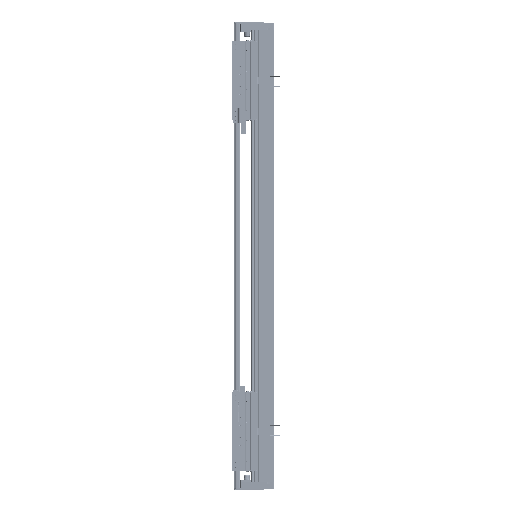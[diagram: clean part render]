
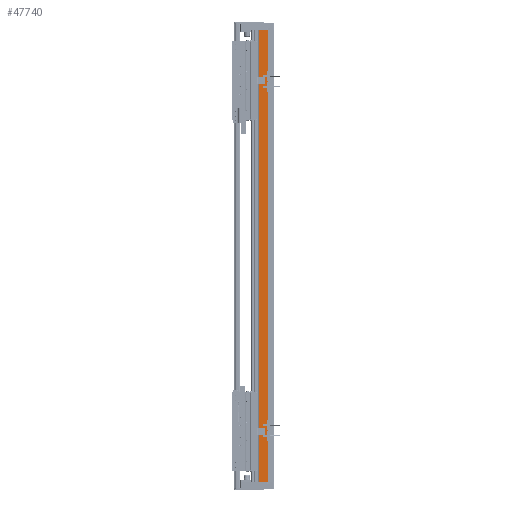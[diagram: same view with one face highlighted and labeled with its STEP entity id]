
A CAD part, left-side view. The second image highlights one B-rep face of the part: STEP entity #47740.
In plain terms, the highlighted planar face has unit normal (-1, 0, 0).
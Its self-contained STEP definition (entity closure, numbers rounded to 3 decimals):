
#1186 = AXIS2_PLACEMENT_3D ( 'NONE', #151927, #57555, #105191 ) ;
#9674 = VECTOR ( 'NONE', #139517, 1000. ) ;
#13402 = CARTESIAN_POINT ( 'NONE',  ( -97.5, 14.45, 540. ) ) ;
#14078 = DIRECTION ( 'NONE',  ( 0., -1., 0. ) ) ;
#15842 = VECTOR ( 'NONE', #14078, 1000. ) ;
#19335 = LINE ( 'NONE', #56823, #9674 ) ;
#24794 = DIRECTION ( 'NONE',  ( 0., -1., 0. ) ) ;
#32442 = VERTEX_POINT ( 'NONE', #102098 ) ;
#47740 = ADVANCED_FACE ( 'NONE', ( #91909 ), #139457, .F. ) ;
#50768 = CARTESIAN_POINT ( 'NONE',  ( -97.5, 36.95, -540. ) ) ;
#53779 = VERTEX_POINT ( 'NONE', #147242 ) ;
#56823 = CARTESIAN_POINT ( 'NONE',  ( -97.5, 36.95, 540. ) ) ;
#57555 = DIRECTION ( 'NONE',  ( 1., 0., 0. ) ) ;
#59184 = CARTESIAN_POINT ( 'NONE',  ( -97.5, 36.95, 540. ) ) ;
#60892 = EDGE_LOOP ( 'NONE', ( #66786, #109153, #135639, #83271 ) ) ;
#66786 = ORIENTED_EDGE ( 'NONE', *, *, #85790, .T. ) ;
#75849 = VERTEX_POINT ( 'NONE', #13402 ) ;
#79349 = EDGE_CURVE ( 'NONE', #134895, #32442, #19335, .T. ) ;
#83271 = ORIENTED_EDGE ( 'NONE', *, *, #79349, .T. ) ;
#84133 = LINE ( 'NONE', #59184, #129641 ) ;
#85790 = EDGE_CURVE ( 'NONE', #32442, #53779, #121015, .T. ) ;
#91909 = FACE_OUTER_BOUND ( 'NONE', #60892, .T. ) ;
#102098 = CARTESIAN_POINT ( 'NONE',  ( -97.5, 36.95, -540. ) ) ;
#105191 = DIRECTION ( 'NONE',  ( 0., 1., 0. ) ) ;
#109153 = ORIENTED_EDGE ( 'NONE', *, *, #133159, .F. ) ;
#112398 = LINE ( 'NONE', #138829, #134843 ) ;
#114305 = CARTESIAN_POINT ( 'NONE',  ( -97.5, 36.95, 540. ) ) ;
#121015 = LINE ( 'NONE', #50768, #15842 ) ;
#129641 = VECTOR ( 'NONE', #24794, 1000. ) ;
#132330 = EDGE_CURVE ( 'NONE', #134895, #75849, #84133, .T. ) ;
#133159 = EDGE_CURVE ( 'NONE', #75849, #53779, #112398, .T. ) ;
#134843 = VECTOR ( 'NONE', #135758, 1000. ) ;
#134895 = VERTEX_POINT ( 'NONE', #114305 ) ;
#135639 = ORIENTED_EDGE ( 'NONE', *, *, #132330, .F. ) ;
#135758 = DIRECTION ( 'NONE',  ( 0., 0., -1. ) ) ;
#138829 = CARTESIAN_POINT ( 'NONE',  ( -97.5, 14.45, 540. ) ) ;
#139457 = PLANE ( 'NONE',  #1186 ) ;
#139517 = DIRECTION ( 'NONE',  ( 0., 0., -1. ) ) ;
#147242 = CARTESIAN_POINT ( 'NONE',  ( -97.5, 14.45, -540. ) ) ;
#151927 = CARTESIAN_POINT ( 'NONE',  ( -97.5, 36.95, 540. ) ) ;
